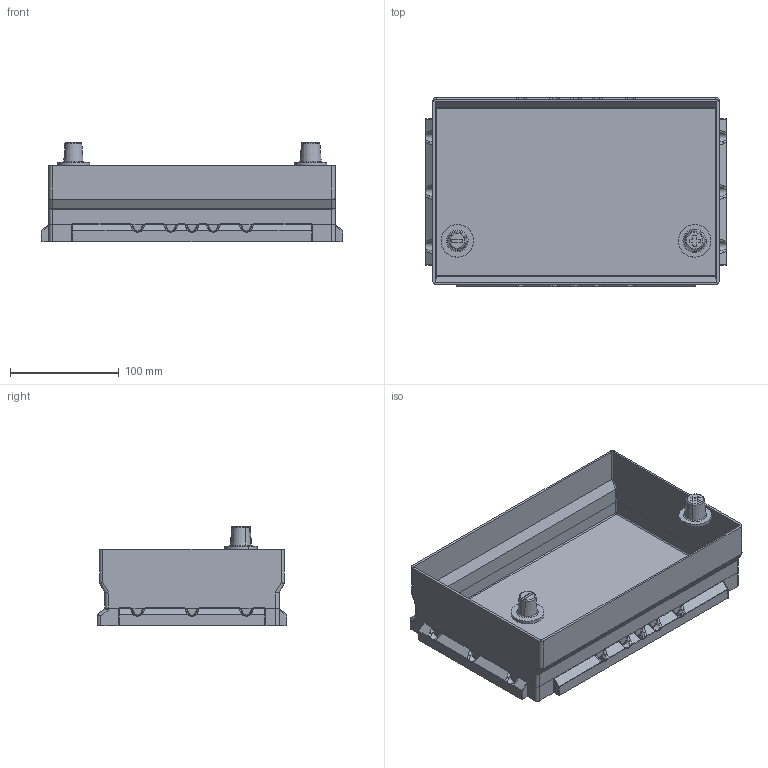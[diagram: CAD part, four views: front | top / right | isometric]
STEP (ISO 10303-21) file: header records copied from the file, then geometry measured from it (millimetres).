
FILE_DESCRIPTION(('CATIA V5 STEP Exchange'),'2;1');
FILE_NAME('G:\Risto Project\akuteema\Liteplus\Liteplus battery base_.stp','2013-04-15T21:04:33+00:00',('none'),('none'),'CATIA Version 5 Release 21 GA (IN-10)','CATIA V5 STEP AP203','none');
FILE_SCHEMA(('CONFIG_CONTROL_DESIGN'));
Length unit declared in the file: millimetre
Products named in the file (1): Battery base
Bounding box: 277 x 174 x 91 mm (x, y, z)
Volume: 285041.5 mm3; surface area: 238014.9 mm2
Topology: 4 solids, 4 shells, 859 faces, 2144 edges, 1322 vertices
Faces by surface type: plane 371, cylinder 292, bspline 142, torus 40, sphere 10, cone 4
Entity records: 31969 total; most frequent: CARTESIAN_POINT 14495, ORIENTED_EDGE 4248, DIRECTION 2378, EDGE_CURVE 2124, VERTEX_POINT 1322, VECTOR 1138, LINE 1138, EDGE_LOOP 922
